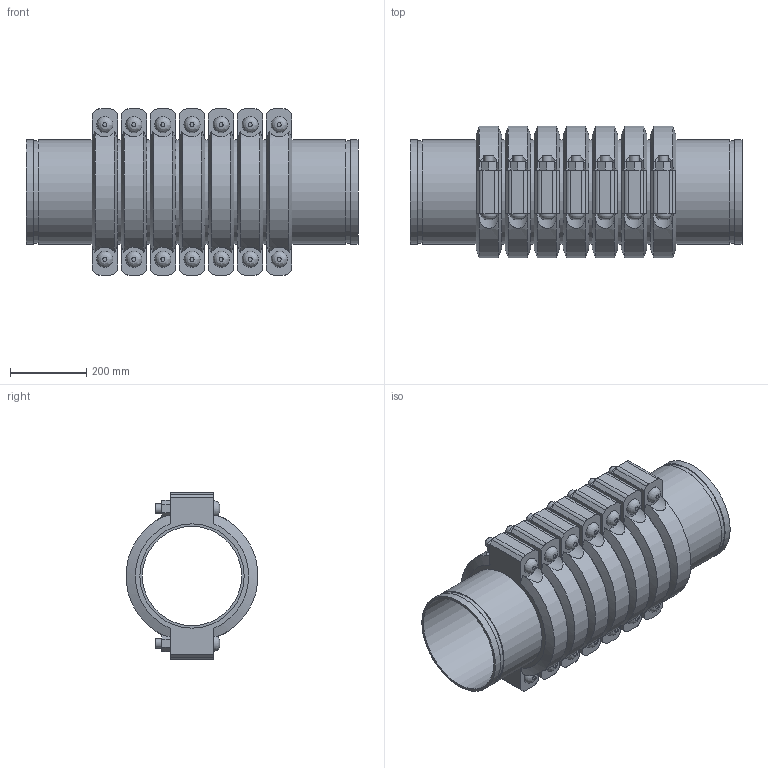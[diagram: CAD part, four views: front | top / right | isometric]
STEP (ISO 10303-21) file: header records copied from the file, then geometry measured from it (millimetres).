
FILE_DESCRIPTION(/* description */ ('VIC EXPANSION JOINT 7 COUPLINGS EXPANDED STYLE 155 (OGS)','CAx-IF Rec.Pracs.---Representation and Presentation of Product Manufacturing Information (PMI)---4.0---2014-10-13'),/* implementation_level */ '2;1');
FILE_NAME(/* name */ 'C:\Users\kkamble\AppData\Roaming\Autodesk\ApplicationPlugins\Victaulic.Temp\A179\Victaulic_IPS_Expansion Joint_Expanded_7 Couplings_Style 155 (OGS)_10 (250).stp',/* time_stamp */ '2021-06-27T00:07:28+02:00',/* author */ ('kkamble'),/* organization */ ('Victaulic'),/* preprocessor_version */ 'ST-DEVELOPER v17.2',/* originating_system */ 'Autodesk Inventor 2019',/* authorisation */ '');
FILE_SCHEMA (('AP242_MANAGED_MODEL_BASED_3D_ENGINEERING_MIM_LF { 1 0 10303 442 1 1 4 }'));
Length unit declared in the file: inch
Products named in the file (4): 155-10.0; Nipple-10.0; Nipple-10.0_1; 077-10.0
Assembly tree (15 placements, depth 2):
  155-10.0
    Nipple-10.0  x2
    Nipple-10.0_1  x6
    077-10.0  x7
Bounding box: 869.95 x 344.9 x 435.1 mm (x, y, z)
Volume: 24632533.5 mm3; surface area: 3527541.8 mm2
Topology: 15 solids, 29 shells, 523 faces, 1255 edges, 878 vertices
Faces by surface type: plane 300, cylinder 181, cone 28, bspline 14
Full cylindrical faces by diameter (mm): 25.4 x28, 27.432 x14, 260.35 x8, 264.16 x7, 268.275 x16, 273.05 x38
Entity records: 3105 total; most frequent: CARTESIAN_POINT 679, DIRECTION 485, ORIENTED_EDGE 410, EDGE_CURVE 205, AXIS2_PLACEMENT_3D 198, VERTEX_POINT 146, EDGE_LOOP 111, CIRCLE 96
